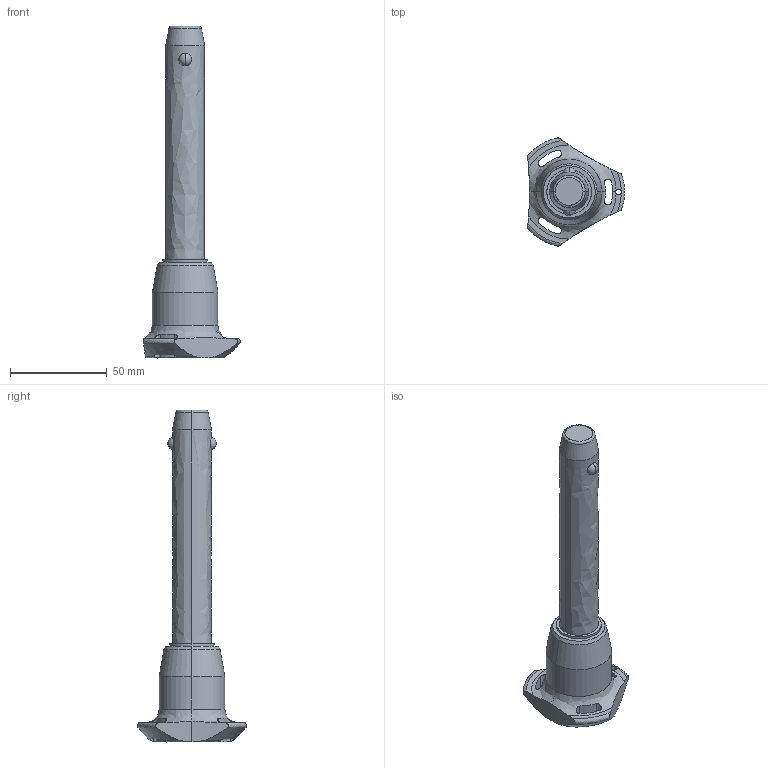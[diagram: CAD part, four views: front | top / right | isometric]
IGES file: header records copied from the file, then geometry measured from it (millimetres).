
Start section: SolidWorks IGES file using analytic representation for surfaces
Global section: file name: C:\Users\ianosborn\Desktop\QR1724_v2\QR1724_v2_20251112_IGES\QR1724.M20-100-S.igs; native system: SolidWorks 2019; preprocessor: SolidWorks 2019; author: IanOsborn; date: 251112.130841; units: millimetre
Bounding box: 50.03 x 56.02 x 171.2 mm (x, y, z)
Surface area: 17250.4 mm2 (no closed solid volume)
Topology: 0 solids, 0 shells, 65 faces, 1310 edges, 1306 vertices
Faces by surface type: revolution 50, bspline 15
